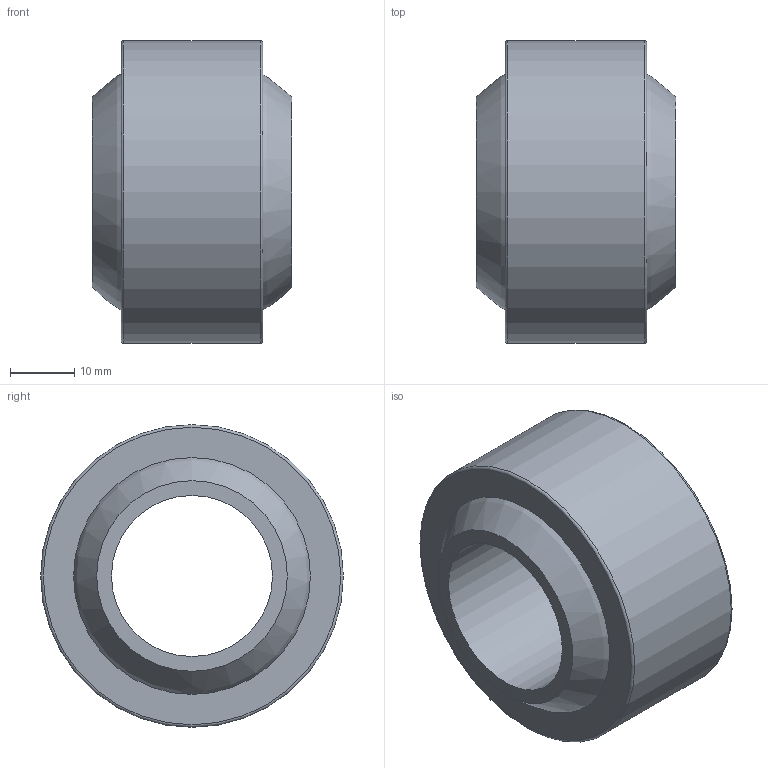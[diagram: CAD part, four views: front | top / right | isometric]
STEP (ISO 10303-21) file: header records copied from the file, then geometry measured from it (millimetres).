
FILE_DESCRIPTION( ( 'STEP AP203' ), '1' );
FILE_NAME( 'C:/Temp/Ganter_Step_05_03_2020/data/3_6/gn_648_8/gn_648_8_w/Ball joint GN 648.8-25-47-W.stp', '2020-03-12T14:14:32', ( 'License CC BY-ND 4.0' ), ( 'CADENAS' ), ' ', 'PARTsolutions', ' ' );
FILE_SCHEMA( ( 'CONFIG_CONTROL_DESIGN' ) );
Length unit declared in the file: millimetre
Products named in the file (3): Ball joint GN 648.8-25-47-W; _Ball joint GN 648.8-25-47-W-2; _Ball joint GN 648.8-25-47-W-1
Assembly tree (2 placements, depth 2):
  Ball joint GN 648.8-25-47-W
    _Ball joint GN 648.8-25-47-W-2
    _Ball joint GN 648.8-25-47-W-1
Bounding box: 31 x 47 x 47 mm (x, y, z)
Volume: 30914.8 mm3; surface area: 14507.6 mm2
Topology: 2 solids, 2 shells, 10 faces, 16 edges, 10 vertices
Faces by surface type: plane 4, sphere 2, torus 2, cylinder 2
Full cylindrical faces by diameter (mm): 25 x1, 47 x1
Entity records: 320 total; most frequent: DIRECTION 46, CARTESIAN_POINT 33, AXIS2_PLACEMENT_3D 23, EDGE_LOOP 20, ORIENTED_EDGE 20, FACE_OUTER_BOUND 16, CC_DESIGN_PERSON_AND_ORGANIZATION_ASSIGNMENT 13, ADVANCED_FACE 10
